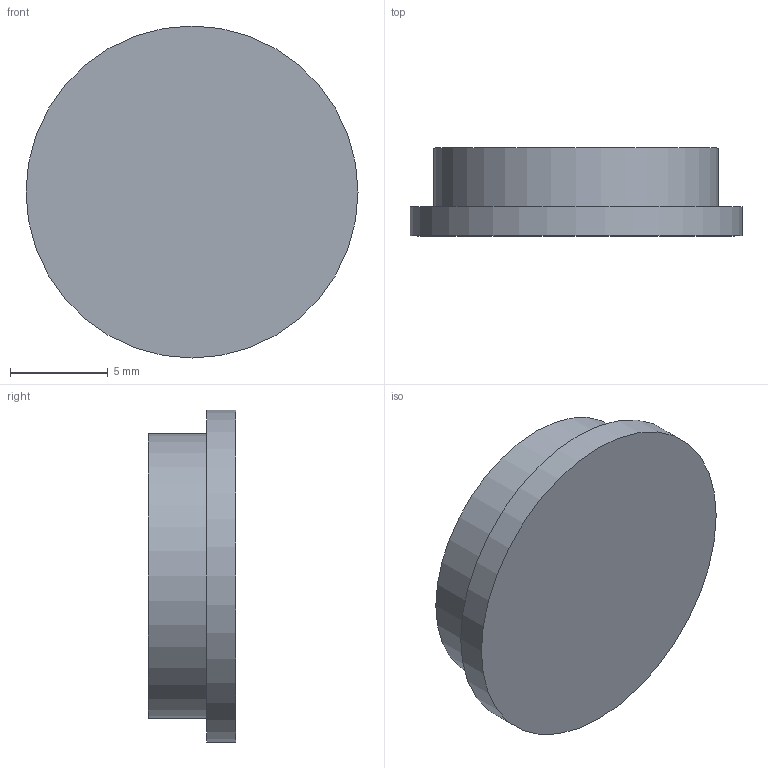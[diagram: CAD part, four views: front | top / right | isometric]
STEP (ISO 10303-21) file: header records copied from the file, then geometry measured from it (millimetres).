
FILE_DESCRIPTION(('Open CASCADE Model'),'2;1');
FILE_NAME('Open CASCADE Shape Model','2026-10-20T14:20:54',('Author'),( 'Open CASCADE'),'Open CASCADE STEP processor 7.8','Open CASCADE 7.8' ,'Unknown');
FILE_SCHEMA(('AUTOMOTIVE_DESIGN { 1 0 10303 214 1 1 1 1 }'));
Length unit declared in the file: millimetre
Products named in the file (1): Open CASCADE STEP translator 7.8 13
Bounding box: 17 x 4.5 x 17 mm (x, y, z)
Volume: 835.6 mm3; surface area: 687.5 mm2
Topology: 1 solids, 1 shells, 7 faces, 9 edges, 6 vertices
Faces by surface type: plane 4, cylinder 3
Full cylindrical faces by diameter (mm): 1.8 x1, 14.6 x1, 17 x1
Entity records: 276 total; most frequent: DIRECTION 49, CARTESIAN_POINT 41, ORIENTED_EDGE 18, PCURVE 18, DEFINITIONAL_REPRESENTATION 18, LINE 15, VECTOR 15, AXIS2_PLACEMENT_3D 14
